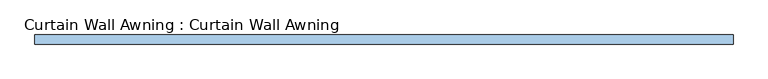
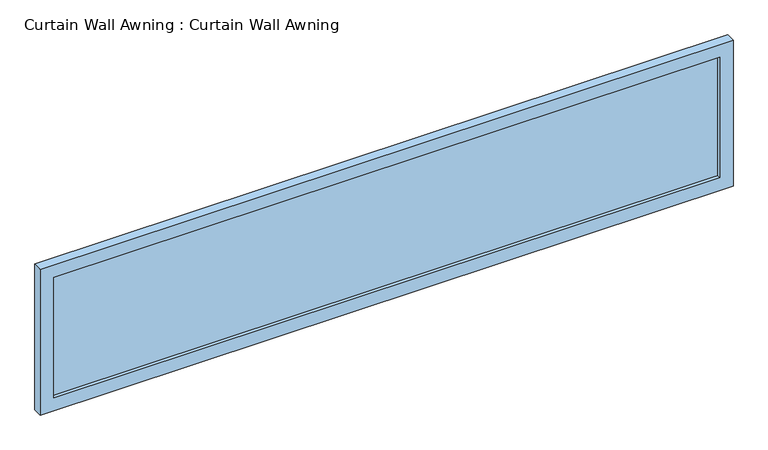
"""IFC4 building model written with IfcOpenShell, lengths in millimetres: window geometry, Curtain Wall Awning : Curtain Wall Awning."""

from ifc_helpers import new_model, si_unit, frame, origin, place, context, project, spatial, polyline, outline, extrude, source, transform, mapped, element, save


def curtain_wall_awning_curtain_wall_awning_050ee861(model_context):
    return source(origin(), model_context, "Body", "SweptSolid", [
        extrude(outline(polyline([(1873.8, 44.45), (-1873.8, 44.45), (-1873.8, 57.15), (1873.8, 57.15), (1873.8, 44.45)])), frame((0.0, 0.0, 76.2), z_axis=(0.0, 0.0, 1.0), x_axis=(1.0, 0.0, 0.0)), (0.0, 0.0, 1.0), 715.9166168),
        extrude(outline(polyline([(868.3166168, -1950.0), (0.0, -1950.0), (0.0, 1950.0), (868.3166168, 1950.0), (868.3166168, -1950.0)]), holes=[polyline([(792.1166168, -1873.8), (792.1166168, 1873.8), (76.2, 1873.8), (76.2, -1873.8), (792.1166168, -1873.8)])]), frame((0.0, 25.4, 0.0), z_axis=(0.0, 1.0, 0.0), x_axis=(0.0, 0.0, 1.0)), (0.0, 0.0, 1.0), 50.8),
    ])


if __name__ == "__main__":
    model = new_model("IFC4")
    model_context = context("Model", 3, world=origin())
    ifc_project = project(units=[si_unit("LENGTHUNIT", "METRE", prefix="MILLI")], contexts=[model_context])
    site = spatial("IfcSite", under=ifc_project)
    building = spatial("IfcBuilding", under=site)
    placement = place(None, origin())
    curtain_wall_awning_curtain_wall_awning_shape = curtain_wall_awning_curtain_wall_awning_050ee861(model_context)
    element("IfcWindow", 1, ObjectType="Curtain Wall Awning : Curtain Wall Awning", at=placement, inside=building, context=model_context, shape_type="MappedRepresentation", body=[
        mapped(curtain_wall_awning_curtain_wall_awning_shape, transform((0.0, 0.0, 0.0), x_axis=(1.0, 0.0, 0.0), y_axis=(0.0, 1.0, 0.0), z_axis=(0.0, 0.0, 1.0))),
    ])
    save(model, "model.ifc")
